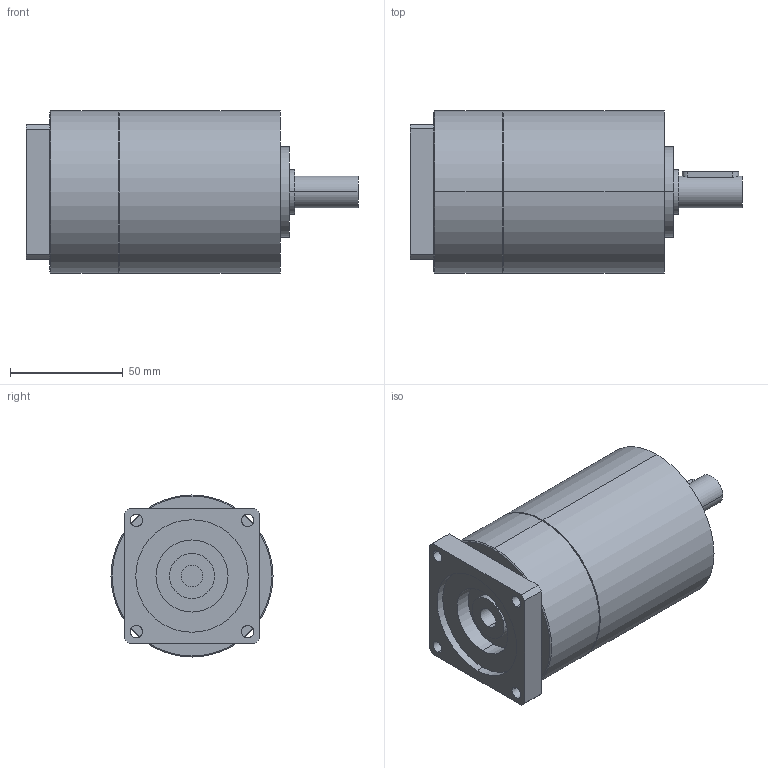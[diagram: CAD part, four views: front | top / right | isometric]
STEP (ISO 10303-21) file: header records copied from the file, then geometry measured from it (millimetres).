
FILE_DESCRIPTION(('CoCreate Modeling STEP Export'),'2;1');
FILE_NAME('GPT75_ig-9-12-16-20-25-28-35-40-50-70-100_14_B14T_9.52_P20.stp','2014-08-27T13:25:27',(''),(''),'CoCreate Modeling STEP processor for AP214 (Solid Model)','CoCreate Modeling 16.00C 25-Feb-2009 (C) Parametric Technology GmbH','');
FILE_SCHEMA(('AUTOMOTIVE_DESIGN { 1 0 10303 214 1 1 1 1 }'));
Length unit declared in the file: millimetre
Products named in the file (2): GPT75_ig-9-12-16-20-25-28-35-40-50-70-100_14_B14T_9.52_P20
Assembly tree (1 placements, depth 2):
  GPT75_ig-9-12-16-20-25-28-35-40-50-70-100_14_B14T_9.52_P20
    GPT75_ig-9-12-16-20-25-28-35-40-50-70-100_14_B14T_9.52_P20
Bounding box: 147.5 x 72 x 72 mm (x, y, z)
Volume: 449666.2 mm3; surface area: 40206.5 mm2
Topology: 1 solids, 1 shells, 80 faces, 193 edges, 124 vertices
Faces by surface type: cylinder 42, plane 34, cone 4
Entity records: 2328 total; most frequent: CARTESIAN_POINT 684, ORIENTED_EDGE 386, DIRECTION 276, EDGE_CURVE 193, VERTEX_POINT 124, AXIS2_PLACEMENT_3D 104, EDGE_LOOP 97, FACE_OUTER_BOUND 80
